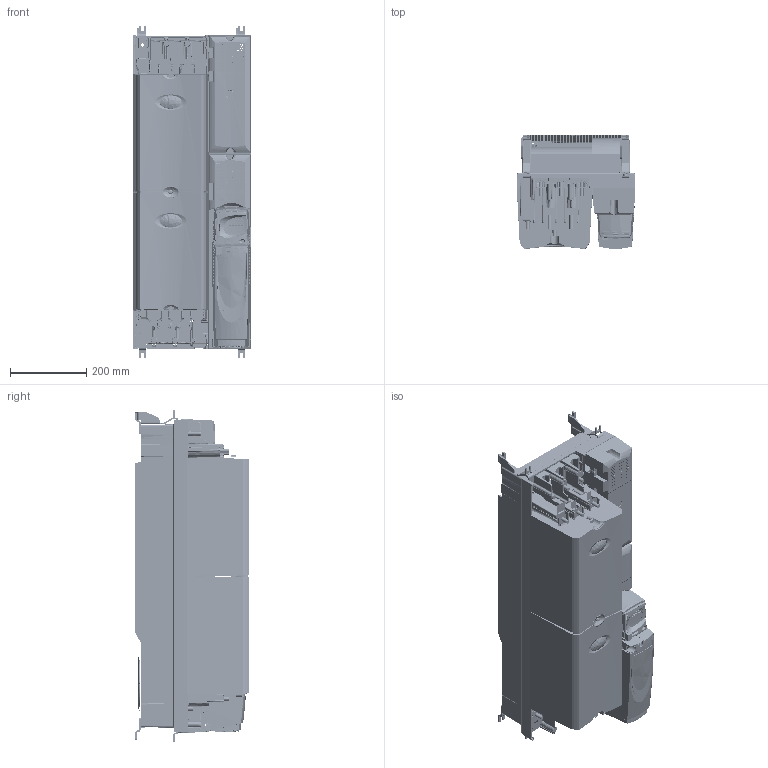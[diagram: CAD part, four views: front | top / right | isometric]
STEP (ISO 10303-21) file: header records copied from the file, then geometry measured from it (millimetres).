
FILE_DESCRIPTION((''),'2;1');
FILE_NAME('SP5_WITHOUT_TERMINAL_COVERS','2007-03-22T',('summne01'),(''),'PRO/ENGINEER BY PARAMETRIC TECHNOLOGY CORPORATION, 2006460','PRO/ENGINEER BY PARAMETRIC TECHNOLOGY CORPORATION, 2006460','');
FILE_SCHEMA(('CONFIG_CONTROL_DESIGN'));
Products named in the file (1): SP5_WITHOUT_TERMINAL_COVERS
Bounding box: 310.16 x 298 x 868.63 mm (x, y, z)
Surface area: 3272251 mm2 (no closed solid volume)
Topology: 0 solids, 393 shells, 3510 faces, 19651 edges, 16189 vertices
Faces by surface type: plane 1649, cylinder 985, bspline 428, cone 241, torus 160, extrusion 26, sphere 13, revolution 8
Entity records: 262021 total; most frequent: CARTESIAN_POINT 125502, ORIENTED_EDGE 25493, DIRECTION 23246, EDGE_CURVE 19649, VERTEX_POINT 16189, VECTOR 9580, LINE 9554, AXIS2_PLACEMENT_3D 6829
